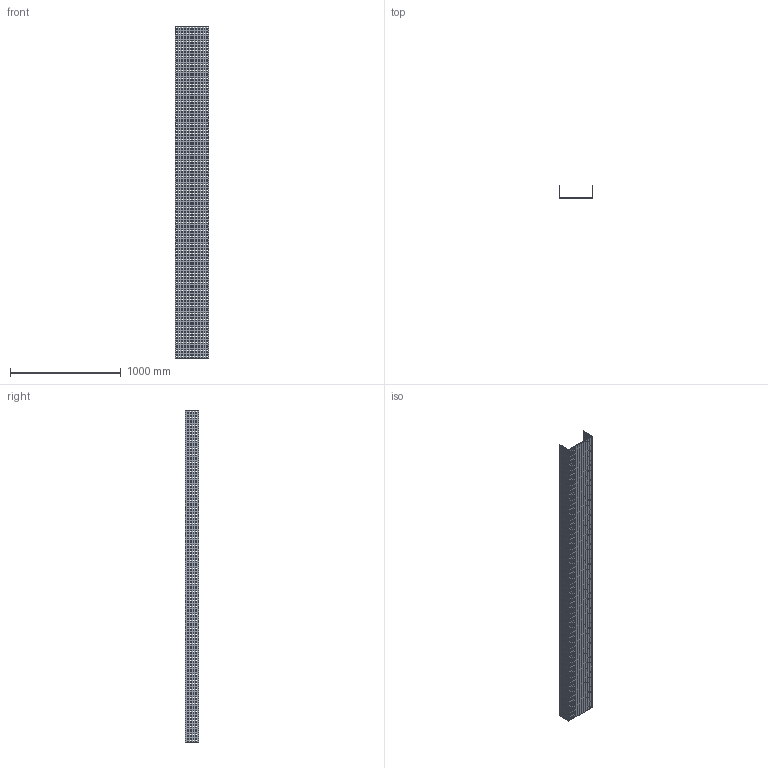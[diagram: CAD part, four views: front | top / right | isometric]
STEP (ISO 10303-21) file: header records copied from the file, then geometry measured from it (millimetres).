
FILE_DESCRIPTION (( 'STEP AP214' ), '1' );
FILE_NAME ('01B3J300.step', '2025-02-21T10:05:38', ( '' ), ( '' ), 'SwSTEP 2.0', 'SolidWorks 2023', '' );
FILE_SCHEMA (( 'AUTOMOTIVE_DESIGN' ));
Length unit declared in the file: millimetre
Products named in the file (1): 01B3J300
Bounding box: 304 x 117.5 x 3000 mm (x, y, z)
Volume: 4704000 mm3; surface area: 3035284 mm2
Topology: 1 solids, 1 shells, 5770 faces, 17304 edges, 11536 vertices
Faces by surface type: plane 5770
Entity records: 196151 total; most frequent: CARTESIAN_POINT 34611, ORIENTED_EDGE 34608, DIRECTION 28846, EDGE_CURVE 17304, VECTOR 17304, LINE 17304, VERTEX_POINT 11536, EDGE_LOOP 8650
